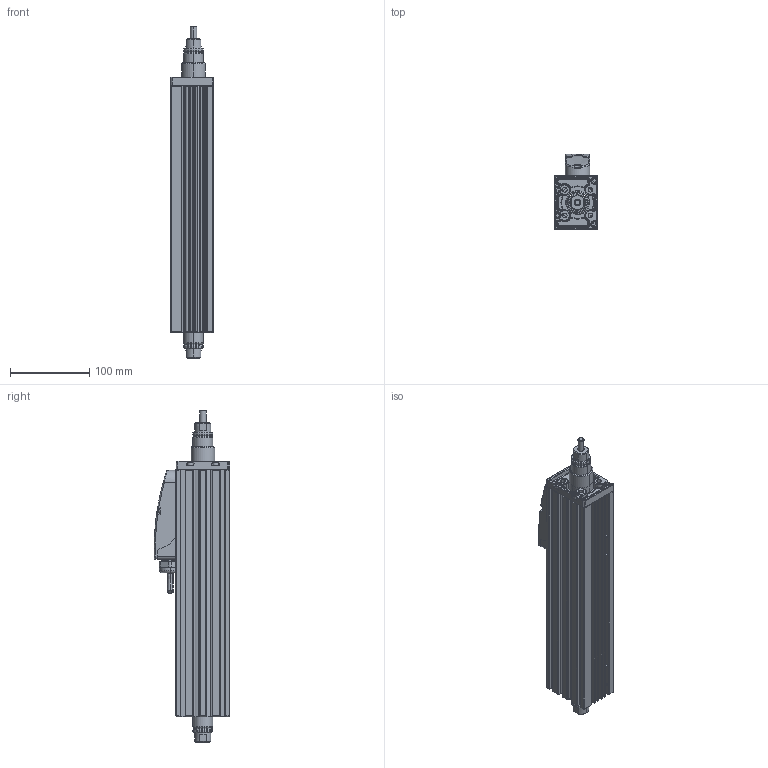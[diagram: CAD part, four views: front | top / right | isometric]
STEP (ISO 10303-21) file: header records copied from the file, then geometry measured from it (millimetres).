
FILE_DESCRIPTION (( 'STEP AP203' ), '1' );
FILE_NAME ('STA2510-027.STEP', '2011-10-13T13:13:37', ( 'showsden' ), ( '' ), 'SwSTEP 2.0', 'SolidWorks 2011', '' );
FILE_SCHEMA (( 'CONFIG_CONTROL_DESIGN' ));
Length unit declared in the file: millimetre
Products named in the file (14): STA2510-027; TRA25 Thrust Rod - Solid_TRA2510 (027); Screw, Cap Head, M4_Screw, Cap Head, M4 x 16; STA25 Bearing End Support - Solid_MP02261; STA25 MOTOR HOUSING (REV-B)_STA2510; ST25 POD ASSEMBLY (DLS)_ST25 POD ASSEMBLY (SOLID); MP02254-D ST25 Pod Base Gasket_MP02254; ST25 CABLE ASSEMBLY (REV2)_MA02197 (FLEXING); POWER CABLE_FLEXING (POWER); SIGNAL CABLE_FLEXING (SIGNAL); PG16 Gland Nut (REV2)_PG16 (REV 2); Screw, Button Head, M3_Screw, Button Head, M3 x 10; Screw, Cap Head, M2.5_Screw, Cap Head, M2.5 x 6; ST25 POD (DLS)_ST25 POD (SOLID)
Assembly tree (20 placements, depth 4):
  STA2510-027
    STA25 Bearing End Support - Solid_MP02261
    Screw, Cap Head, M4_Screw, Cap Head, M4 x 16  x4
    STA25 MOTOR HOUSING (REV-B)_STA2510
    ST25 POD ASSEMBLY (DLS)_ST25 POD ASSEMBLY (SOLID)
      Screw, Button Head, M3_Screw, Button Head, M3 x 10  x4
      Screw, Cap Head, M2.5_Screw, Cap Head, M2.5 x 6  x2
      ST25 POD (DLS)_ST25 POD (SOLID)
      ST25 CABLE ASSEMBLY (REV2)_MA02197 (FLEXING)
        SIGNAL CABLE_FLEXING (SIGNAL)
        PG16 Gland Nut (REV2)_PG16 (REV 2)
        POWER CABLE_FLEXING (POWER)
      MP02254-D ST25 Pod Base Gasket_MP02254
    TRA25 Thrust Rod - Solid_TRA2510 (027)
Bounding box: 54 x 95.5 x 420 mm (x, y, z)
Volume: 1093453.3 mm3; surface area: 266837.1 mm2
Topology: 18 solids, 18 shells, 1636 faces, 4226 edges, 2687 vertices
Faces by surface type: plane 567, cylinder 516, bspline 365, cone 116, torus 56, sphere 16
Entity records: 75343 total; most frequent: CARTESIAN_POINT 39247, ORIENTED_EDGE 7888, DIRECTION 6221, EDGE_CURVE 3944, VERTEX_POINT 2531, AXIS2_PLACEMENT_3D 2326, EDGE_LOOP 1659, LINE 1569
